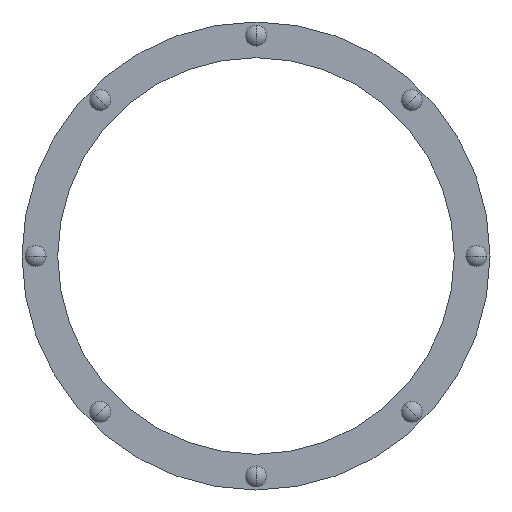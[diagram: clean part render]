
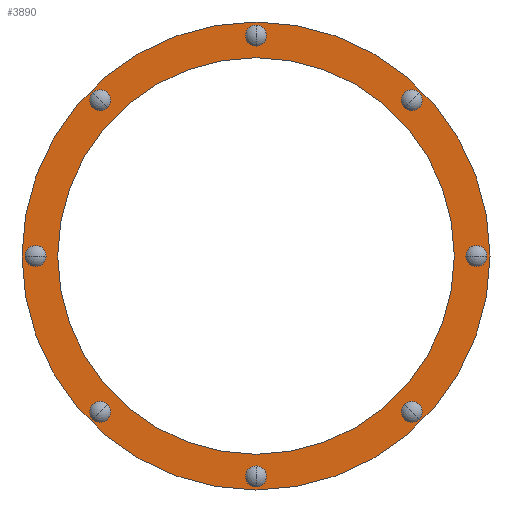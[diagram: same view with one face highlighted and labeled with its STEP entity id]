
A CAD part, front view. The second image highlights one B-rep face of the part: STEP entity #3890.
In plain terms, the highlighted planar face has unit normal (0, -1, 0).
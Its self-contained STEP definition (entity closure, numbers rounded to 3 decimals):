
#1247=CARTESIAN_POINT('',(-190.212,-92.,190.212));
#1248=DIRECTION('',(0.,1.,0.));
#1249=DIRECTION('',(-0.707,0.,0.707));
#1250=AXIS2_PLACEMENT_3D('',#1247,#1248,#1249);
#1252=CARTESIAN_POINT('',(-190.212,-92.,190.212));
#1253=DIRECTION('',(0.,1.,0.));
#1254=DIRECTION('',(0.707,0.,-0.707));
#1255=AXIS2_PLACEMENT_3D('',#1252,#1253,#1254);
#1257=CARTESIAN_POINT('',(0.,-92.,269.));
#1258=DIRECTION('',(0.,1.,0.));
#1259=DIRECTION('',(0.,0.,1.));
#1260=AXIS2_PLACEMENT_3D('',#1257,#1258,#1259);
#1262=CARTESIAN_POINT('',(0.,-92.,269.));
#1263=DIRECTION('',(0.,1.,0.));
#1264=DIRECTION('',(0.,0.,-1.));
#1265=AXIS2_PLACEMENT_3D('',#1262,#1263,#1264);
#1267=CARTESIAN_POINT('',(190.212,-92.,190.212));
#1268=DIRECTION('',(0.,1.,0.));
#1269=DIRECTION('',(0.707,0.,0.707));
#1270=AXIS2_PLACEMENT_3D('',#1267,#1268,#1269);
#1272=CARTESIAN_POINT('',(190.212,-92.,190.212));
#1273=DIRECTION('',(0.,1.,0.));
#1274=DIRECTION('',(-0.707,0.,-0.707));
#1275=AXIS2_PLACEMENT_3D('',#1272,#1273,#1274);
#1277=CARTESIAN_POINT('',(269.,-92.,0.));
#1278=DIRECTION('',(0.,1.,0.));
#1279=DIRECTION('',(1.,0.,0.));
#1280=AXIS2_PLACEMENT_3D('',#1277,#1278,#1279);
#1282=CARTESIAN_POINT('',(269.,-92.,0.));
#1283=DIRECTION('',(0.,1.,0.));
#1284=DIRECTION('',(-1.,0.,0.));
#1285=AXIS2_PLACEMENT_3D('',#1282,#1283,#1284);
#1287=CARTESIAN_POINT('',(190.212,-92.,-190.212));
#1288=DIRECTION('',(0.,1.,0.));
#1289=DIRECTION('',(0.707,0.,-0.707));
#1290=AXIS2_PLACEMENT_3D('',#1287,#1288,#1289);
#1292=CARTESIAN_POINT('',(190.212,-92.,-190.212));
#1293=DIRECTION('',(0.,1.,0.));
#1294=DIRECTION('',(-0.707,0.,0.707));
#1295=AXIS2_PLACEMENT_3D('',#1292,#1293,#1294);
#1297=CARTESIAN_POINT('',(0.,-92.,-269.));
#1298=DIRECTION('',(0.,1.,0.));
#1299=DIRECTION('',(0.,0.,-1.));
#1300=AXIS2_PLACEMENT_3D('',#1297,#1298,#1299);
#1302=CARTESIAN_POINT('',(0.,-92.,-269.));
#1303=DIRECTION('',(0.,1.,0.));
#1304=DIRECTION('',(0.,0.,1.));
#1305=AXIS2_PLACEMENT_3D('',#1302,#1303,#1304);
#1307=CARTESIAN_POINT('',(-190.212,-92.,-190.212));
#1308=DIRECTION('',(0.,1.,0.));
#1309=DIRECTION('',(-0.707,0.,-0.707));
#1310=AXIS2_PLACEMENT_3D('',#1307,#1308,#1309);
#1312=CARTESIAN_POINT('',(-190.212,-92.,-190.212));
#1313=DIRECTION('',(0.,1.,0.));
#1314=DIRECTION('',(0.707,0.,0.707));
#1315=AXIS2_PLACEMENT_3D('',#1312,#1313,#1314);
#1317=CARTESIAN_POINT('',(-269.,-92.,0.));
#1318=DIRECTION('',(0.,1.,0.));
#1319=DIRECTION('',(-1.,0.,0.));
#1320=AXIS2_PLACEMENT_3D('',#1317,#1318,#1319);
#1322=CARTESIAN_POINT('',(-269.,-92.,0.));
#1323=DIRECTION('',(0.,1.,0.));
#1324=DIRECTION('',(1.,0.,0.));
#1325=AXIS2_PLACEMENT_3D('',#1322,#1323,#1324);
#1327=CARTESIAN_POINT('',(0.,-92.,0.));
#1328=DIRECTION('',(0.,1.,0.));
#1329=DIRECTION('',(-0.5,0.,0.866));
#1330=AXIS2_PLACEMENT_3D('',#1327,#1328,#1329);
#1332=CARTESIAN_POINT('',(0.,-92.,0.));
#1333=DIRECTION('',(0.,1.,0.));
#1334=DIRECTION('',(-0.866,0.,0.5));
#1335=AXIS2_PLACEMENT_3D('',#1332,#1333,#1334);
#1345=CARTESIAN_POINT('',(0.,-92.,0.));
#1346=DIRECTION('',(0.,1.,0.));
#1347=DIRECTION('',(-0.5,0.,0.866));
#1348=AXIS2_PLACEMENT_3D('',#1345,#1346,#1347);
#1350=CARTESIAN_POINT('',(0.,-92.,0.));
#1351=DIRECTION('',(0.,1.,0.));
#1352=DIRECTION('',(-0.866,0.,0.5));
#1353=AXIS2_PLACEMENT_3D('',#1350,#1351,#1352);
#2744=CARTESIAN_POINT('',(-281.75,-92.,0.));
#2745=CARTESIAN_POINT('',(-256.25,-92.,0.));
#2746=VERTEX_POINT('',#2744);
#2747=VERTEX_POINT('',#2745);
#2802=CARTESIAN_POINT('',(-199.227,-92.,-199.227));
#2803=CARTESIAN_POINT('',(-181.196,-92.,-181.196));
#2804=VERTEX_POINT('',#2802);
#2805=VERTEX_POINT('',#2803);
#2860=CARTESIAN_POINT('',(0.,-92.,-281.75));
#2861=CARTESIAN_POINT('',(0.,-92.,-256.25));
#2862=VERTEX_POINT('',#2860);
#2863=VERTEX_POINT('',#2861);
#2918=CARTESIAN_POINT('',(199.227,-92.,-199.227));
#2919=CARTESIAN_POINT('',(181.196,-92.,-181.196));
#2920=VERTEX_POINT('',#2918);
#2921=VERTEX_POINT('',#2919);
#2976=CARTESIAN_POINT('',(281.75,-92.,0.));
#2977=CARTESIAN_POINT('',(256.25,-92.,0.));
#2978=VERTEX_POINT('',#2976);
#2979=VERTEX_POINT('',#2977);
#3034=CARTESIAN_POINT('',(199.227,-92.,199.227));
#3035=CARTESIAN_POINT('',(181.196,-92.,181.196));
#3036=VERTEX_POINT('',#3034);
#3037=VERTEX_POINT('',#3035);
#3092=CARTESIAN_POINT('',(0.,-92.,281.75));
#3093=CARTESIAN_POINT('',(0.,-92.,256.25));
#3094=VERTEX_POINT('',#3092);
#3095=VERTEX_POINT('',#3093);
#3150=CARTESIAN_POINT('',(-199.227,-92.,199.227));
#3151=CARTESIAN_POINT('',(-181.196,-92.,181.196));
#3152=VERTEX_POINT('',#3150);
#3153=VERTEX_POINT('',#3151);
#3166=CARTESIAN_POINT('',(-247.337,-92.,142.8));
#3167=VERTEX_POINT('',#3166);
#3168=CARTESIAN_POINT('',(-209.578,-92.,121.));
#3170=VERTEX_POINT('',#3168);
#3194=CARTESIAN_POINT('',(-142.8,-92.,247.337));
#3195=VERTEX_POINT('',#3194);
#3196=CARTESIAN_POINT('',(-121.,-92.,209.578));
#3198=VERTEX_POINT('',#3196);
#3827=CARTESIAN_POINT('',(0.,-92.,0.));
#3828=DIRECTION('',(0.,1.,0.));
#3829=DIRECTION('',(0.866,0.,0.5));
#3830=AXIS2_PLACEMENT_3D('',#3827,#3828,#3829);
#3831=PLANE('',#3830);
#3832=ORIENTED_EDGE('',*,*,#3806,.T.);
#3833=ORIENTED_EDGE('',*,*,#3822,.T.);
#3834=EDGE_LOOP('',(#3832,#3833));
#3835=FACE_OUTER_BOUND('',#3834,.F.);
#3837=ORIENTED_EDGE('',*,*,#3836,.F.);
#3839=ORIENTED_EDGE('',*,*,#3838,.F.);
#3840=EDGE_LOOP('',(#3837,#3839));
#3841=FACE_BOUND('',#3840,.F.);
#3843=ORIENTED_EDGE('',*,*,#3842,.F.);
#3845=ORIENTED_EDGE('',*,*,#3844,.F.);
#3846=EDGE_LOOP('',(#3843,#3845));
#3847=FACE_BOUND('',#3846,.F.);
#3849=ORIENTED_EDGE('',*,*,#3848,.F.);
#3851=ORIENTED_EDGE('',*,*,#3850,.F.);
#3852=EDGE_LOOP('',(#3849,#3851));
#3853=FACE_BOUND('',#3852,.F.);
#3855=ORIENTED_EDGE('',*,*,#3854,.F.);
#3857=ORIENTED_EDGE('',*,*,#3856,.F.);
#3858=EDGE_LOOP('',(#3855,#3857));
#3859=FACE_BOUND('',#3858,.F.);
#3861=ORIENTED_EDGE('',*,*,#3860,.F.);
#3863=ORIENTED_EDGE('',*,*,#3862,.F.);
#3864=EDGE_LOOP('',(#3861,#3863));
#3865=FACE_BOUND('',#3864,.F.);
#3867=ORIENTED_EDGE('',*,*,#3866,.F.);
#3869=ORIENTED_EDGE('',*,*,#3868,.F.);
#3870=EDGE_LOOP('',(#3867,#3869));
#3871=FACE_BOUND('',#3870,.F.);
#3873=ORIENTED_EDGE('',*,*,#3872,.F.);
#3875=ORIENTED_EDGE('',*,*,#3874,.F.);
#3876=EDGE_LOOP('',(#3873,#3875));
#3877=FACE_BOUND('',#3876,.F.);
#3879=ORIENTED_EDGE('',*,*,#3878,.F.);
#3881=ORIENTED_EDGE('',*,*,#3880,.F.);
#3882=EDGE_LOOP('',(#3879,#3881));
#3883=FACE_BOUND('',#3882,.F.);
#3885=ORIENTED_EDGE('',*,*,#3884,.F.);
#3887=ORIENTED_EDGE('',*,*,#3886,.F.);
#3888=EDGE_LOOP('',(#3885,#3887));
#3889=FACE_BOUND('',#3888,.F.);
#3890=ADVANCED_FACE('',(#3835,#3841,#3847,#3853,#3859,#3865,#3871,#3877,#3883,
#3889),#3831,.F.);
#1251=CIRCLE('',#1250,12.75);
#1256=CIRCLE('',#1255,12.75);
#1261=CIRCLE('',#1260,12.75);
#1266=CIRCLE('',#1265,12.75);
#1271=CIRCLE('',#1270,12.75);
#1276=CIRCLE('',#1275,12.75);
#1281=CIRCLE('',#1280,12.75);
#1286=CIRCLE('',#1285,12.75);
#1291=CIRCLE('',#1290,12.75);
#1296=CIRCLE('',#1295,12.75);
#1301=CIRCLE('',#1300,12.75);
#1306=CIRCLE('',#1305,12.75);
#1311=CIRCLE('',#1310,12.75);
#1316=CIRCLE('',#1315,12.75);
#1321=CIRCLE('',#1320,12.75);
#1326=CIRCLE('',#1325,12.75);
#1331=CIRCLE('',#1330,285.6);
#1336=CIRCLE('',#1335,285.6);
#1349=CIRCLE('',#1348,242.);
#1354=CIRCLE('',#1353,242.);
#3806=EDGE_CURVE('',#3195,#3167,#1331,.T.);
#3822=EDGE_CURVE('',#3167,#3195,#1336,.T.);
#3836=EDGE_CURVE('',#3152,#3153,#1251,.T.);
#3838=EDGE_CURVE('',#3153,#3152,#1256,.T.);
#3842=EDGE_CURVE('',#3094,#3095,#1261,.T.);
#3844=EDGE_CURVE('',#3095,#3094,#1266,.T.);
#3848=EDGE_CURVE('',#3036,#3037,#1271,.T.);
#3850=EDGE_CURVE('',#3037,#3036,#1276,.T.);
#3854=EDGE_CURVE('',#2978,#2979,#1281,.T.);
#3856=EDGE_CURVE('',#2979,#2978,#1286,.T.);
#3860=EDGE_CURVE('',#2920,#2921,#1291,.T.);
#3862=EDGE_CURVE('',#2921,#2920,#1296,.T.);
#3866=EDGE_CURVE('',#2862,#2863,#1301,.T.);
#3868=EDGE_CURVE('',#2863,#2862,#1306,.T.);
#3872=EDGE_CURVE('',#2804,#2805,#1311,.T.);
#3874=EDGE_CURVE('',#2805,#2804,#1316,.T.);
#3878=EDGE_CURVE('',#2746,#2747,#1321,.T.);
#3880=EDGE_CURVE('',#2747,#2746,#1326,.T.);
#3884=EDGE_CURVE('',#3198,#3170,#1349,.T.);
#3886=EDGE_CURVE('',#3170,#3198,#1354,.T.);
